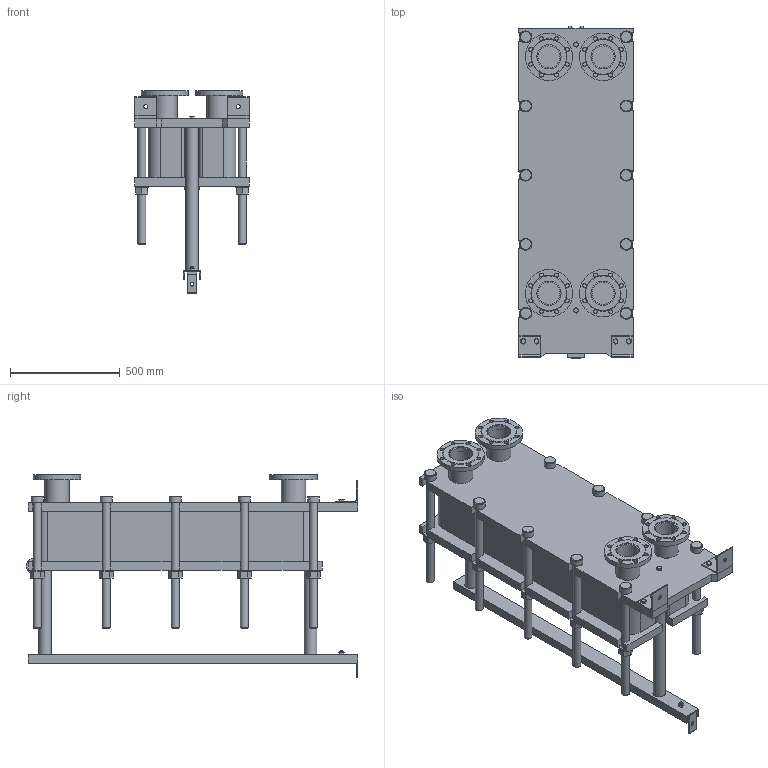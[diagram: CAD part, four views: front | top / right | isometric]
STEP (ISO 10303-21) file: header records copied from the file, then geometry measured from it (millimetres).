
FILE_DESCRIPTION(/* description */ (''),/* implementation_level */ '2;1');
FILE_NAME(/* name */ 'C:\Users\zhuro\Desktop\ENCO\TO\ЭН-04\ЭН-0,5-04-66-1.stp',/* time_stamp */ '2022-06-06T10:50:15+03:00',/* author */ ('zhuro'),/* organization */ (''),/* preprocessor_version */ 'ST-DEVELOPER v18.1',/* originating_system */ 'Autodesk Inventor 2022',/* authorisation */ '');
FILE_SCHEMA (('AUTOMOTIVE_DESIGN { 1 0 10303 214 3 1 1 }'));
Length unit declared in the file: millimetre
Products named in the file (1): ЭН-0,5-04-66-1
Bounding box: 520 x 1510 x 928 mm (x, y, z)
Volume: 183170031.4 mm3; surface area: 7607598.7 mm2
Topology: 45 solids, 45 shells, 668 faces, 1611 edges, 1048 vertices
Faces by surface type: plane 457, cylinder 166, cone 39, torus 6
Full cylindrical faces by diameter (mm): 8 x4, 10 x2, 16 x8, 18 x35, 36 x25, 40 x2, 42 x1, 45 x4, 54 x10, 57 x2, 60 x10, 68 x2, 100 x4, 110 x8, 215 x4
Entity records: 23607 total; most frequent: CARTESIAN_POINT 7348, DIRECTION 3371, ORIENTED_EDGE 3142, EDGE_CURVE 1571, AXIS2_PLACEMENT_3D 1199, VERTEX_POINT 1044, LINE 973, VECTOR 973
